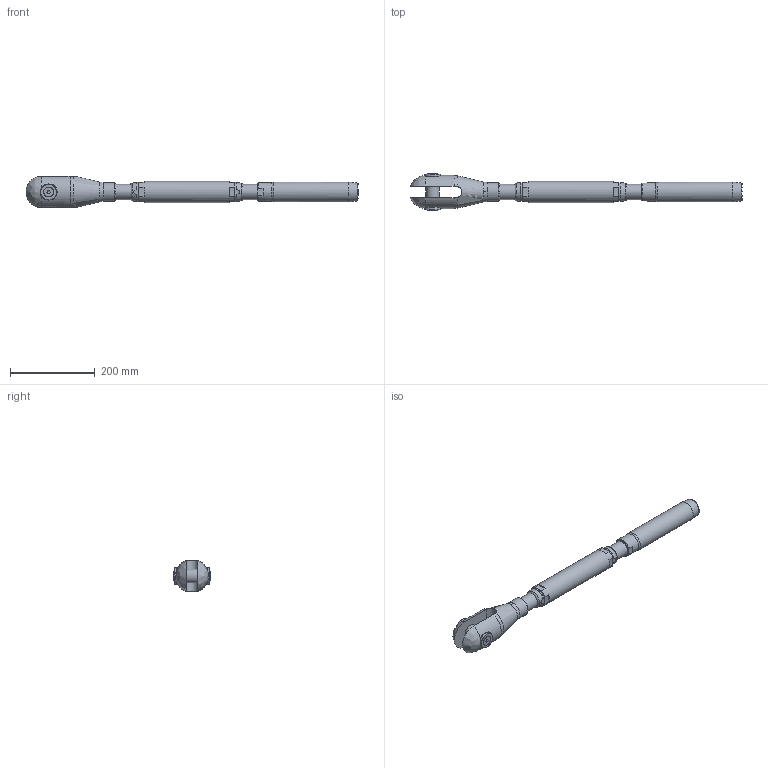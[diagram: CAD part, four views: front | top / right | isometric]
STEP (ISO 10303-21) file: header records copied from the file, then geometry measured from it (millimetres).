
FILE_DESCRIPTION(/* description */ (''),/* implementation_level */ '2;1');
FILE_NAME(/* name */ 'TBC 22_1,4462',/* time_stamp */ '2023-05-23T18:17:10+02:00',/* author */ (''),/* organization */ (''),/* preprocessor_version */ 'ST-DEVELOPER v16.5',/* originating_system */ 'Rhino 7.22',/* authorisation */ '');
FILE_SCHEMA (('CONFIG_CONTROL_DESIGN'));
Length unit declared in the file: millimetre
Products named in the file (1): Document
Bounding box: 783.5 x 85.7 x 73.18 mm (x, y, z)
Volume: 1413298 mm3; surface area: 220616.1 mm2
Topology: 10 solids, 10 shells, 141 faces, 384 edges, 265 vertices
Faces by surface type: plane 65, bspline 41, cylinder 35
Full cylindrical faces by diameter (mm): 10.106 x2, 12 x2, 12.5 x2, 23.12 x2, 32 x1, 32.752 x4, 34 x2, 36 x2, 38 x2, 40 x1, 44.5 x2, 46.8 x1, 50 x1
Entity records: 5934 total; most frequent: CARTESIAN_POINT 3498, ORIENTED_EDGE 760, EDGE_CURVE 380, VERTEX_POINT 265, EDGE_LOOP 161, B_SPLINE_CURVE_WITH_KNOTS 158, ADVANCED_FACE 141, FACE_OUTER_BOUND 141
